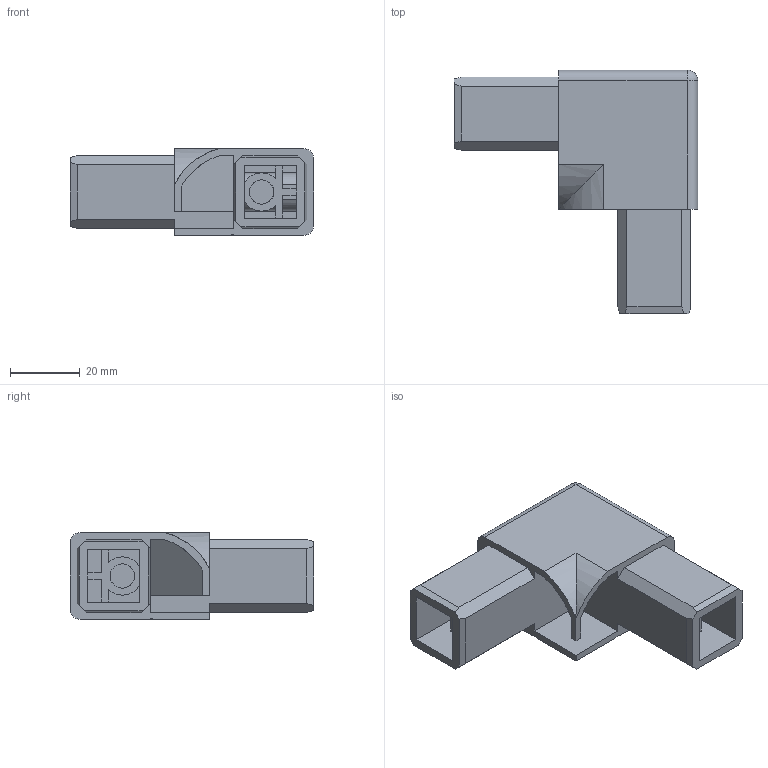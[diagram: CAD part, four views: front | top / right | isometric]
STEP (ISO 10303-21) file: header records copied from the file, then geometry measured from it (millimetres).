
FILE_DESCRIPTION (( 'STEP AP214' ), '1' );
FILE_NAME ('L15840.step', '2024-12-03T16:19:46', ( '' ), ( '' ), 'SwSTEP 2.0', 'SolidWorks 2023', '' );
FILE_SCHEMA (( 'AUTOMOTIVE_DESIGN' ));
Length unit declared in the file: millimetre
Products named in the file (1): L15840
Bounding box: 70 x 70 x 25 mm (x, y, z)
Volume: 41235.9 mm3; surface area: 25370.8 mm2
Topology: 1 solids, 1 shells, 98 faces, 295 edges, 190 vertices
Faces by surface type: plane 76, cylinder 18, sphere 2, cone 2
Full cylindrical faces by diameter (mm): 7 x5
Entity records: 3295 total; most frequent: CARTESIAN_POINT 644, ORIENTED_EDGE 572, DIRECTION 507, EDGE_CURVE 286, VECTOR 237, LINE 237, VERTEX_POINT 188, AXIS2_PLACEMENT_3D 135
